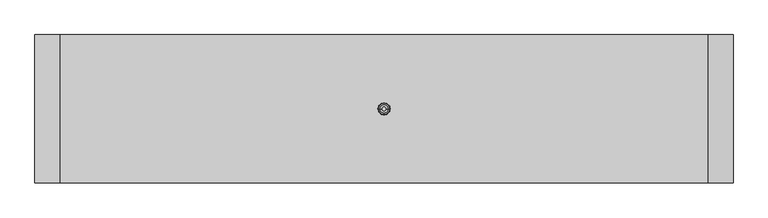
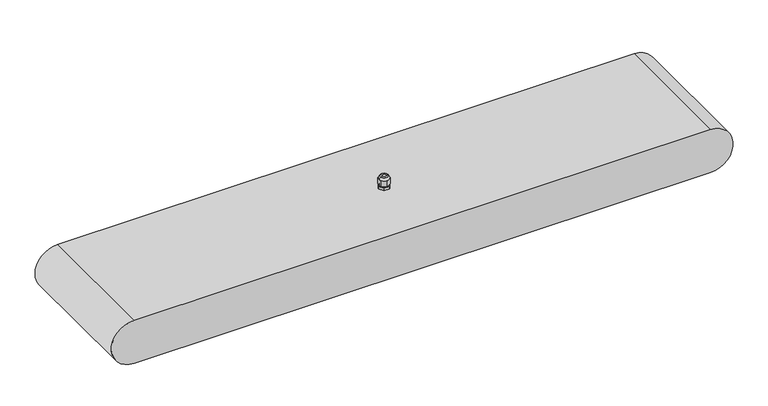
"""IFC4 building model written with IfcOpenShell, lengths in millimetres: light fixture geometry, GENILED_Светильник светодиодный_Element Advanced : Element Advanced 1,0x2 160Вт Линза Ш2."""

from ifc_helpers import new_model, si_unit, point, frame, origin, origin_with_axes, place, context, project, spatial, polyline, circle_curve, ellipse_curve, trimmed, outline, extrude, source, transform, mapped, element, save
from ifc_brep_helpers import plane_surface, cylinder_surface, revolved_surface, advanced_brep


def light_fixture_069bf89a(model_context):
    return source(origin(), model_context, "Body", "SolidModel", [
        advanced_brep(
        [(5.85, 0.0, 95.0120269), (-5.85, 0.0, 95.0120269), (-3.5, 0.0, 95.0120269), (3.5, 0.0, 95.0120269), (8.0, 0.0, 91.0120269), (4.0, 6.9282032, 91.0120269), (-4.0, 6.9282032, 91.0120269), (-8.0, 0.0, 91.0120269), (-4.0, -6.9282032, 91.0120269), (4.0, -6.9282032, 91.0120269), (-3.5, 0.0, 91.0120269), (3.5, 0.0, 91.0120269), (8.0, 4.1231056, 91.0120269), (7.5707142, 4.8666504, 91.0120269), (0.4292858, 8.989756, 91.0120269), (-0.4292858, 8.989756, 91.0120269), (-7.5707142, 4.8666504, 91.0120269), (-8.0, 4.1231056, 91.0120269), (-8.0, -4.1231056, 91.0120269), (-7.5707142, -4.8666504, 91.0120269), (-0.4292858, -8.989756, 91.0120269), (0.4292858, -8.989756, 91.0120269), (7.5707142, -4.8666504, 91.0120269), (8.0, -4.1231056, 91.0120269), (0.4292858, 8.989756, 81.6), (7.5707142, 4.8666504, 81.6), (8.0, 4.1231056, 81.6), (8.0, -4.1231056, 81.6), (7.5707142, -4.8666504, 81.6), (0.4292858, -8.989756, 81.6), (-0.4292858, -8.989756, 81.6), (-7.5707142, -4.8666504, 81.6), (-8.0, -4.1231056, 81.6), (-8.0, 4.1231056, 81.6), (-7.5707142, 4.8666504, 81.6), (-0.4292858, 8.989756, 81.6), (-7.25, 0.0, 81.6), (7.25, 0.0, 81.6), (-7.25, 0.0, 79.6), (7.25, 0.0, 79.6), (-8.989756, -0.4292858, 79.6), (-4.8666504, -7.5707142, 79.6), (-4.1231056, -8.0, 79.6), (4.1231056, -8.0, 79.6), (4.8666504, -7.5707142, 79.6), (8.989756, -0.4292858, 79.6), (9.0, 0.0, 79.6), (8.989756, 0.4292858, 79.6), (4.8666504, 7.5707142, 79.6), (4.1231056, 8.0, 79.6), (-4.1231056, 8.0, 79.6), (-4.8666504, 7.5707142, 79.6), (-8.989756, 0.4292858, 79.6), (-9.0, 0.0, 79.6), (-8.989756, 0.4292858, 75.0), (-4.8666504, 7.5707142, 75.0), (-4.1231056, 8.0, 75.0), (4.1231056, 8.0, 75.0), (4.8666504, 7.5707142, 75.0), (8.989756, 0.4292858, 75.0), (9.0, 0.0, 75.0), (8.989756, -0.4292858, 75.0), (4.8666504, -7.5707142, 75.0), (4.1231056, -8.0, 75.0), (-4.1231056, -8.0, 75.0), (-4.8666504, -7.5707142, 75.0), (-8.989756, -0.4292858, 75.0), (-9.0, 0.0, 75.0)],
        [
            (0, 1, circle_curve(frame((0.0, 0.0, 95.0120269), z_axis=(0.0, 0.0, 1.0), x_axis=(-1.0, 0.0, 0.0)), 5.85)),
            (1, 2),
            (2, 3, circle_curve(frame((0.0, 0.0, 95.0120269), z_axis=(0.0, 0.0, -1.0), x_axis=(-1.0, 0.0, 0.0)), 3.5)),
            (3, 0),
            (1, 0, circle_curve(frame((0.0, 0.0, 95.0120269), z_axis=(0.0, 0.0, 1.0), x_axis=(-1.0, 0.0, 0.0)), 5.85)),
            (3, 2, circle_curve(frame((0.0, 0.0, 95.0120269), z_axis=(0.0, 0.0, -1.0), x_axis=(-1.0, 0.0, 0.0)), 3.5)),
            (0, 4, circle_curve(frame((2.4876149, 0.0, 90.6269324), z_axis=(0.0, 1.0, 0.0), x_axis=(-1.0, 0.0, 0.0)), 5.5258201)),
            (4, 5, circle_curve(frame((0.0, 0.0, 91.0120269), z_axis=(0.0, 0.0, 1.0), x_axis=(-1.0, 0.0, 0.0)), 8.0)),
            (5, 6, circle_curve(frame((0.0, 0.0, 91.0120269), z_axis=(0.0, 0.0, 1.0), x_axis=(-1.0, 0.0, 0.0)), 8.0)),
            (6, 7, circle_curve(frame((0.0, 0.0, 91.0120269), z_axis=(0.0, 0.0, 1.0), x_axis=(-1.0, 0.0, 0.0)), 8.0)),
            (7, 1, circle_curve(frame((-2.4876149, 0.0, 90.6269324), z_axis=(0.0, 1.0, 0.0), x_axis=(1.0, 0.0, 0.0)), 5.5258201)),
            (7, 8, circle_curve(frame((0.0, 0.0, 91.0120269), z_axis=(0.0, 0.0, 1.0), x_axis=(-1.0, 0.0, 0.0)), 8.0)),
            (8, 9, circle_curve(frame((0.0, 0.0, 91.0120269), z_axis=(0.0, 0.0, 1.0), x_axis=(-1.0, 0.0, 0.0)), 8.0)),
            (9, 4, circle_curve(frame((0.0, 0.0, 91.0120269), z_axis=(0.0, 0.0, 1.0), x_axis=(-1.0, 0.0, 0.0)), 8.0)),
            (2, 10),
            (10, 11, circle_curve(frame((0.0, 0.0, 91.0120269), z_axis=(0.0, 0.0, -1.0), x_axis=(-1.0, 0.0, 0.0)), 3.5)),
            (11, 3),
            (11, 10, circle_curve(frame((0.0, 0.0, 91.0120269), z_axis=(0.0, 0.0, -1.0), x_axis=(-1.0, 0.0, 0.0)), 3.5)),
            (4, 12),
            (12, 13, circle_curve(frame((0.0, 0.0, 91.0120269), z_axis=(0.0, 0.0, 1.0), x_axis=(1.0, 0.0, 0.0)), 9.0)),
            (13, 5),
            (5, 14),
            (14, 15, circle_curve(frame((0.0, 0.0, 91.0120269), z_axis=(0.0, 0.0, 1.0), x_axis=(1.0, 0.0, 0.0)), 9.0)),
            (15, 6),
            (6, 16),
            (16, 17, circle_curve(frame((0.0, 0.0, 91.0120269), z_axis=(0.0, 0.0, 1.0), x_axis=(1.0, 0.0, 0.0)), 9.0)),
            (17, 7),
            (7, 18),
            (18, 19, circle_curve(frame((0.0, 0.0, 91.0120269), z_axis=(0.0, 0.0, 1.0), x_axis=(1.0, 0.0, 0.0)), 9.0)),
            (19, 8),
            (8, 20),
            (20, 21, circle_curve(frame((0.0, 0.0, 91.0120269), z_axis=(0.0, 0.0, 1.0), x_axis=(1.0, 0.0, 0.0)), 9.0)),
            (21, 9),
            (9, 22),
            (22, 23, circle_curve(frame((0.0, 0.0, 91.0120269), z_axis=(0.0, 0.0, 1.0), x_axis=(1.0, 0.0, 0.0)), 9.0)),
            (23, 4),
            (24, 25),
            (25, 26, circle_curve(frame((0.0, 0.0, 81.6), z_axis=(0.0, 0.0, -1.0), x_axis=(1.0, 0.0, 0.0)), 9.0)),
            (26, 27),
            (27, 28, circle_curve(frame((0.0, 0.0, 81.6), z_axis=(0.0, 0.0, -1.0), x_axis=(1.0, 0.0, 0.0)), 9.0)),
            (28, 29),
            (29, 30, circle_curve(frame((0.0, 0.0, 81.6), z_axis=(0.0, 0.0, -1.0), x_axis=(1.0, 0.0, 0.0)), 9.0)),
            (30, 31),
            (31, 32, circle_curve(frame((0.0, 0.0, 81.6), z_axis=(0.0, 0.0, -1.0), x_axis=(1.0, 0.0, 0.0)), 9.0)),
            (32, 33),
            (33, 34, circle_curve(frame((0.0, 0.0, 81.6), z_axis=(0.0, 0.0, -1.0), x_axis=(1.0, 0.0, 0.0)), 9.0)),
            (34, 35),
            (35, 24, circle_curve(frame((0.0, 0.0, 81.6), z_axis=(0.0, 0.0, -1.0), x_axis=(1.0, 0.0, 0.0)), 9.0)),
            (36, 37, circle_curve(frame((0.0, 0.0, 81.6), z_axis=(0.0, 0.0, 1.0), x_axis=(1.0, 0.0, 0.0)), 7.25)),
            (37, 36, circle_curve(frame((0.0, 0.0, 81.6), z_axis=(0.0, 0.0, 1.0), x_axis=(1.0, 0.0, 0.0)), 7.25)),
            (15, 35),
            (34, 16),
            (17, 33),
            (32, 18),
            (19, 31),
            (30, 20),
            (21, 29),
            (28, 22),
            (23, 27),
            (26, 12),
            (13, 25),
            (24, 14),
            (36, 38),
            (38, 39, circle_curve(frame((0.0, 0.0, 79.6), z_axis=(0.0, 0.0, 1.0), x_axis=(1.0, 0.0, 0.0)), 7.25)),
            (39, 37),
            (39, 38, circle_curve(frame((0.0, 0.0, 79.6), z_axis=(0.0, 0.0, 1.0), x_axis=(1.0, 0.0, 0.0)), 7.25)),
            (40, 41),
            (41, 42, circle_curve(frame((0.0, 0.0, 79.6), z_axis=(0.0, 0.0, 1.0), x_axis=(1.0, 0.0, 0.0)), 9.0)),
            (42, 43),
            (43, 44, circle_curve(frame((0.0, 0.0, 79.6), z_axis=(0.0, 0.0, 1.0), x_axis=(1.0, 0.0, 0.0)), 9.0)),
            (44, 45),
            (45, 46, circle_curve(frame((0.0, 0.0, 79.6), z_axis=(0.0, 0.0, 1.0), x_axis=(1.0, 0.0, 0.0)), 9.0)),
            (46, 47, circle_curve(frame((0.0, 0.0, 79.6), z_axis=(0.0, 0.0, 1.0), x_axis=(1.0, 0.0, 0.0)), 9.0)),
            (47, 48),
            (48, 49, circle_curve(frame((0.0, 0.0, 79.6), z_axis=(0.0, 0.0, 1.0), x_axis=(1.0, 0.0, 0.0)), 9.0)),
            (49, 50),
            (50, 51, circle_curve(frame((0.0, 0.0, 79.6), z_axis=(0.0, 0.0, 1.0), x_axis=(1.0, 0.0, 0.0)), 9.0)),
            (51, 52),
            (52, 53, circle_curve(frame((0.0, 0.0, 79.6), z_axis=(0.0, 0.0, 1.0), x_axis=(1.0, 0.0, 0.0)), 9.0)),
            (53, 40, circle_curve(frame((0.0, 0.0, 79.6), z_axis=(0.0, 0.0, 1.0), x_axis=(1.0, 0.0, 0.0)), 9.0)),
            (54, 55),
            (55, 56, circle_curve(frame((0.0, 0.0, 75.0), z_axis=(0.0, 0.0, -1.0), x_axis=(1.0, 0.0, 0.0)), 9.0)),
            (56, 57),
            (57, 58, circle_curve(frame((0.0, 0.0, 75.0), z_axis=(0.0, 0.0, -1.0), x_axis=(1.0, 0.0, 0.0)), 9.0)),
            (58, 59),
            (59, 60, circle_curve(frame((0.0, 0.0, 75.0), z_axis=(0.0, 0.0, -1.0), x_axis=(1.0, 0.0, 0.0)), 9.0)),
            (60, 61, circle_curve(frame((0.0, 0.0, 75.0), z_axis=(0.0, 0.0, -1.0), x_axis=(1.0, 0.0, 0.0)), 9.0)),
            (61, 62),
            (62, 63, circle_curve(frame((0.0, 0.0, 75.0), z_axis=(0.0, 0.0, -1.0), x_axis=(1.0, 0.0, 0.0)), 9.0)),
            (63, 64),
            (64, 65, circle_curve(frame((0.0, 0.0, 75.0), z_axis=(0.0, 0.0, -1.0), x_axis=(1.0, 0.0, 0.0)), 9.0)),
            (65, 66),
            (66, 67, circle_curve(frame((0.0, 0.0, 75.0), z_axis=(0.0, 0.0, -1.0), x_axis=(1.0, 0.0, 0.0)), 9.0)),
            (67, 54, circle_curve(frame((0.0, 0.0, 75.0), z_axis=(0.0, 0.0, -1.0), x_axis=(1.0, 0.0, 0.0)), 9.0)),
            (40, 66),
            (65, 41),
            (42, 64),
            (63, 43),
            (44, 62),
            (61, 45),
            (47, 59),
            (58, 48),
            (49, 57),
            (56, 50),
            (51, 55),
            (54, 52),
            (67, 53),
            (46, 60),
        ],
        [
            plane_surface(frame((0.0, 0.0, 95.0120269), z_axis=(0.0, 0.0, 1.0), x_axis=(-1.0, 0.0, 0.0))),
            revolved_surface(trimmed(ellipse_curve(frame((-2.4876149, 0.0, 90.6269324), z_axis=(0.0, -1.0, 0.0), x_axis=(1.0, 0.0, 0.0)), 5.5258201, 5.5258201), [point((-5.85, 0.0, 95.0120269))], [point((-8.0, 0.0, 91.0120269))], True, "CARTESIAN"), (0.0, 0.0, 91.0120269), (0.0, 0.0, -1.0)),
            revolved_surface(polyline([(-3.5, 0.0, 91.0120269), (-3.5, 0.0, 95.0120269)]), (0.0, 0.0, 91.0120269), (0.0, 0.0, -1.0)),
            plane_surface(frame((0.0, 9.2376043, 91.0120269), z_axis=(0.0, 0.0, 1.0000000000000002), x_axis=(-0.8660254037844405, -0.49999999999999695, 0.0))),
            plane_surface(frame((0.0, 9.2376043, 81.6), z_axis=(0.0, 0.0, -1.0000000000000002), x_axis=(0.8660254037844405, 0.49999999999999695, 0.0))),
            plane_surface(frame((0.0, 9.2376043, 91.0120269), z_axis=(-0.49999999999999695, 0.8660254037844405, 0.0), x_axis=(0.0, 0.0, -1.0))),
            plane_surface(frame((-8.0, 4.6188022, 91.0120269), z_axis=(-1.0, 0.0, 0.0), x_axis=(0.0, 0.0, -1.0))),
            plane_surface(frame((-8.0, -4.6188022, 91.0120269), z_axis=(-0.5000000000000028, -0.8660254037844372, 0.0), x_axis=(0.0, 0.0, -1.0))),
            plane_surface(frame((0.0, -9.2376043, 91.0120269), z_axis=(0.49999999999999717, -0.8660254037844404, 0.0), x_axis=(0.0, 0.0, -1.0))),
            plane_surface(frame((8.0, -4.6188022, 91.0120269), z_axis=(1.0, 0.0, 0.0), x_axis=(0.0, 0.0, -1.0))),
            plane_surface(frame((8.0, 4.6188022, 91.0120269), z_axis=(0.5000000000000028, 0.8660254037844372, 0.0), x_axis=(0.0, 0.0, -1.0))),
            cylinder_surface(frame((0.0, 0.0, 79.6), z_axis=(0.0, 0.0, 1.0), x_axis=(1.0, 0.0, 0.0)), 7.25),
            plane_surface(frame((-9.2376043, 0.0, 79.6), z_axis=(0.0, 0.0, 1.0), x_axis=(0.5000000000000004, -0.8660254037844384, 0.0))),
            plane_surface(frame((-9.2376043, 0.0, 75.0), z_axis=(0.0, 0.0, -1.0), x_axis=(-0.5000000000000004, 0.8660254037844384, 0.0))),
            plane_surface(frame((-9.2376043, 0.0, 79.6), z_axis=(-0.8660254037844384, -0.5000000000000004, 0.0), x_axis=(0.0, 0.0, -1.0))),
            plane_surface(frame((-4.6188022, -8.0, 79.6), z_axis=(0.0, -1.0, 0.0), x_axis=(0.0, 0.0, -1.0))),
            plane_surface(frame((4.6188022, -8.0, 79.6), z_axis=(0.866025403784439, -0.49999999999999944, 0.0), x_axis=(0.0, 0.0, -1.0))),
            plane_surface(frame((9.2376043, 0.0, 79.6), z_axis=(0.8660254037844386, 0.5000000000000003, 0.0), x_axis=(0.0, 0.0, -1.0))),
            plane_surface(frame((4.6188022, 8.0, 79.6), z_axis=(0.0, 1.0, 0.0), x_axis=(0.0, 0.0, -1.0))),
            plane_surface(frame((-4.6188022, 8.0, 79.6), z_axis=(-0.8660254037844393, 0.49999999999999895, 0.0), x_axis=(0.0, 0.0, -1.0))),
            cylinder_surface(frame((0.0, 0.0, 75.0), z_axis=(0.0, 0.0, -1.0), x_axis=(1.0, 0.0, 0.0)), 9.0),
        ],
        [
            (0, [[1, 2, 3, 4]]),
            (0, [[-2, 5, -4, 6]]),
            (1, [[-1, 7, 8, 9, 10, 11]]),
            (1, [[-5, -11, 12, 13, 14, -7]]),
            (2, [[-3, 15, 16, 17]]),
            (2, [[-6, -17, 18, -15]]),
            (3, [[-8, 19, 20, 21]]),
            (3, [[-9, 22, 23, 24]]),
            (3, [[-10, 25, 26, 27]]),
            (3, [[-12, 28, 29, 30]]),
            (3, [[-13, 31, 32, 33]]),
            (3, [[-14, 34, 35, 36]]),
            (3, [[-16, -18]]),
            (4, [[37, 38, 39, 40, 41, 42, 43, 44, 45, 46, 47, 48], [49, 50]]),
            (5, [[-25, -24, 51, -47, 52]]),
            (6, [[-27, 53, -45, 54, -28]]),
            (7, [[-30, 55, -43, 56, -31]]),
            (8, [[-34, -33, 57, -41, 58]]),
            (9, [[-36, 59, -39, 60, -19]]),
            (10, [[-21, 61, -37, 62, -22]]),
            (11, [[63, 64, 65, -49]]),
            (11, [[-63, -50, -65, 66]]),
            (12, [[67, 68, 69, 70, 71, 72, 73, 74, 75, 76, 77, 78, 79, 80], [-64, -66]]),
            (13, [[81, 82, 83, 84, 85, 86, 87, 88, 89, 90, 91, 92, 93, 94]]),
            (14, [[-67, 95, -92, 96]]),
            (15, [[-69, 97, -90, 98]]),
            (16, [[-71, 99, -88, 100]]),
            (17, [[-74, 101, -85, 102]]),
            (18, [[-76, 103, -83, 104]]),
            (19, [[-78, 105, -81, 106]]),
            (20, [[-20, -60, -38, -61]]),
            (20, [[-23, -62, -48, -51]]),
            (20, [[-26, -52, -46, -53]]),
            (20, [[-75, -102, -84, -103]]),
            (20, [[-77, -104, -82, -105]]),
            (20, [[107, -79, -106, -94]]),
            (20, [[108, -86, -101, -73]]),
            (20, [[-29, -54, -44, -55]]),
            (20, [[-32, -56, -42, -57]]),
            (20, [[-35, -58, -40, -59]]),
            (20, [[-68, -96, -91, -97]]),
            (20, [[-70, -98, -89, -99]]),
            (20, [[-107, -93, -95, -80]]),
            (20, [[-108, -72, -100, -87]]),
        ],
    ),
        advanced_brep(
        [(475.0, -109.0, 75.0), (-475.0, -109.0, 75.0), (-475.0, -109.0, 0.0), (475.0, -109.0, 0.0), (475.0, 109.0, 75.0), (475.0, 109.0, 0.0), (-475.0, 109.0, 0.0), (-475.0, 109.0, 75.0), (-475.0, 99.0, 0.0), (-475.0, -99.0, 0.0), (475.0, -99.0, 0.0), (475.0, 99.0, 0.0), (475.0, 99.0, 2.0), (475.0, -99.0, 2.0), (-475.0, -99.0, 2.0), (-475.0, 99.0, 2.0)],
        [
            (0, 1),
            (1, 2, circle_curve(frame((-475.0, -109.0, 37.5), z_axis=(0.0, -1.0, 0.0), x_axis=(1.0, 0.0, 0.0)), 37.5)),
            (2, 3),
            (3, 0, circle_curve(frame((475.0, -109.0, 37.5), z_axis=(0.0, -1.0, 0.0), x_axis=(1.0, 0.0, 0.0)), 37.5)),
            (4, 5, circle_curve(frame((475.0, 109.0, 37.5), z_axis=(0.0, 1.0, 0.0), x_axis=(1.0, 0.0, 0.0)), 37.5)),
            (5, 6),
            (6, 7, circle_curve(frame((-475.0, 109.0, 37.5), z_axis=(0.0, 1.0, 0.0), x_axis=(1.0, 0.0, 0.0)), 37.5)),
            (7, 4),
            (0, 4),
            (7, 1),
            (6, 8),
            (8, 9),
            (9, 2),
            (9, 10),
            (10, 3),
            (5, 11),
            (11, 8),
            (10, 11),
            (12, 13),
            (13, 14),
            (14, 15),
            (15, 12),
            (15, 8),
            (11, 12),
            (14, 9),
            (13, 10),
        ],
        [
            plane_surface(frame((-475.0, -109.0, 75.0), z_axis=(0.0, -1.0, 0.0), x_axis=(-1.0, 0.0, 0.0))),
            plane_surface(frame((-475.0, 109.0, 75.0), z_axis=(0.0, 1.0, 0.0), x_axis=(1.0, 0.0, 0.0))),
            plane_surface(frame((475.0, -109.0, 75.0), z_axis=(0.0, 0.0, 1.0), x_axis=(0.0, 1.0, 0.0))),
            cylinder_surface(frame((-475.0, 109.0, 37.5), z_axis=(0.0, -1.0, 0.0), x_axis=(1.0, 0.0, 0.0)), 37.5),
            plane_surface(frame((-475.0, -109.0, 0.0), z_axis=(0.0, 0.0, -1.0), x_axis=(0.0, 1.0, 0.0))),
            cylinder_surface(frame((475.0, 109.0, 37.5), z_axis=(0.0, -1.0, 0.0), x_axis=(1.0, 0.0, 0.0)), 37.5),
            plane_surface(frame((-475.0, 99.0, 2.0), z_axis=(0.0, 0.0, -1.0), x_axis=(-1.0, 0.0, 0.0))),
            plane_surface(frame((475.0, 99.0, 2.0), z_axis=(0.0, -1.0, 0.0), x_axis=(0.0, 0.0, -1.0))),
            plane_surface(frame((-475.0, 99.0, 2.0), z_axis=(1.0, 0.0, 0.0), x_axis=(0.0, 0.0, -1.0))),
            plane_surface(frame((-475.0, -99.0, 2.0), z_axis=(0.0, 1.0, 0.0), x_axis=(0.0, 0.0, -1.0))),
            plane_surface(frame((475.0, -99.0, 2.0), z_axis=(-1.0, 0.0, 0.0), x_axis=(0.0, 0.0, -1.0))),
        ],
        [
            (0, [[1, 2, 3, 4]]),
            (1, [[5, 6, 7, 8]]),
            (2, [[-1, 9, -8, 10]]),
            (3, [[-2, -10, -7, 11, 12, 13]]),
            (4, [[-3, -13, 14, 15]]),
            (4, [[-6, 16, 17, -11]]),
            (5, [[-4, -15, 18, -16, -5, -9]]),
            (6, [[19, 20, 21, 22]]),
            (7, [[-22, 23, -17, 24]]),
            (8, [[-21, 25, -12, -23]]),
            (9, [[-20, 26, -14, -25]]),
            (10, [[-19, -24, -18, -26]]),
        ],
    ),
        extrude(outline(polyline([(475.0, 99.0), (475.0, -99.0), (-475.0, -99.0), (-475.0, 99.0), (475.0, 99.0)])), origin_with_axes(), (0.0, 0.0, 1.0), 2.0),
    ])


if __name__ == "__main__":
    model = new_model("IFC4")
    model_context = context("Model", 3, world=origin())
    ifc_project = project(units=[si_unit("LENGTHUNIT", "METRE", prefix="MILLI")], contexts=[model_context])
    site = spatial("IfcSite", under=ifc_project)
    building = spatial("IfcBuilding", under=site)
    placement = place(None, origin())
    light_fixture_shape = light_fixture_069bf89a(model_context)
    element("IfcLightFixture", 1, ObjectType="GENILED_Светильник светодиодный_Element Advanced : Element Advanced 1,0x2 160Вт Линза Ш2", at=placement, inside=building, context=model_context, shape_type="MappedRepresentation", body=[
        mapped(light_fixture_shape, transform((0.0, 0.0, 0.0), x_axis=(1.0, 0.0, 0.0), y_axis=(0.0, 1.0, 0.0), z_axis=(0.0, 0.0, 1.0))),
    ])
    save(model, "model.ifc")
